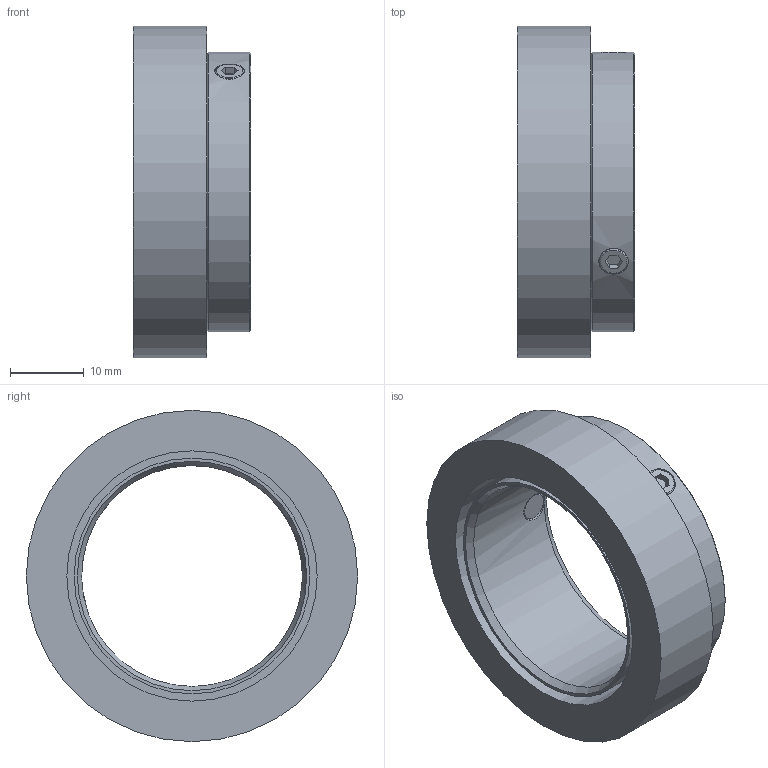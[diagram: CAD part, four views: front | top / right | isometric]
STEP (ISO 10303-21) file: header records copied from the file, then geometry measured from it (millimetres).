
FILE_DESCRIPTION (( 'STEP AP203' ), '1' );
FILE_NAME ('8.RI20.045.3000.111.STEP', '2013-07-30T12:06:04', ( 'Hodot' ), ( '' ), 'SwSTEP 2.0', 'SolidWorks 2012', '' );
FILE_SCHEMA (( 'CONFIG_CONTROL_DESIGN' ));
Length unit declared in the file: millimetre
Products named in the file (1): 8.RI20.045.3000.111
Bounding box: 16 x 45 x 45 mm (x, y, z)
Volume: 10200.9 mm3; surface area: 7966.4 mm2
Topology: 4 solids, 4 shells, 46 faces, 104 edges, 68 vertices
Faces by surface type: plane 24, cylinder 13, cone 9
Full cylindrical faces by diameter (mm): 4 x4, 30 x1, 32 x1, 34 x1, 38 x1, 45 x1
Entity records: 1389 total; most frequent: CARTESIAN_POINT 395, DIRECTION 188, ORIENTED_EDGE 154, EDGE_CURVE 77, AXIS2_PLACEMENT_3D 76, EDGE_LOOP 74, VERTEX_POINT 59, FACE_OUTER_BOUND 55
